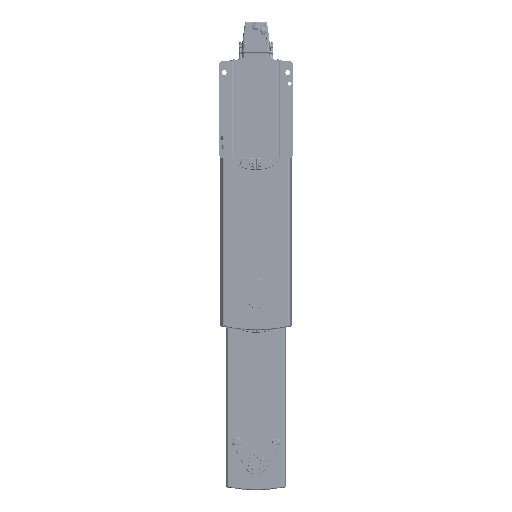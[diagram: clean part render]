
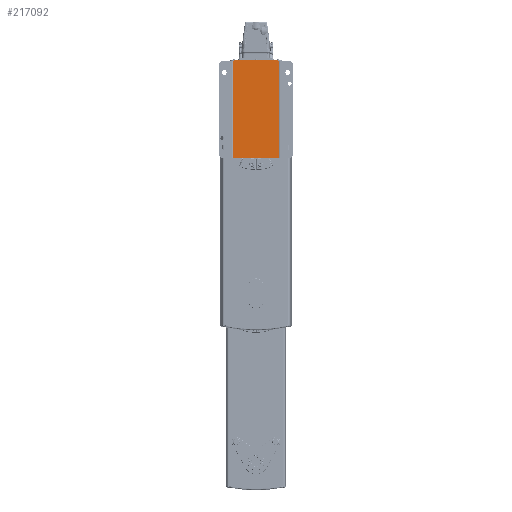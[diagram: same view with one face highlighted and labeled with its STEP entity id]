
A CAD part, front view. The second image highlights one B-rep face of the part: STEP entity #217092.
In plain terms, the highlighted planar face has unit normal (0, -1, 0).
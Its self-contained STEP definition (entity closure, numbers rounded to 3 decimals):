
#4188 = VERTEX_POINT ( 'NONE', #6015 ) ;
#5626 = VECTOR ( 'NONE', #175443, 1000. ) ;
#6015 = CARTESIAN_POINT ( 'NONE',  ( -62., -17., -87.5 ) ) ;
#10782 = VERTEX_POINT ( 'NONE', #75899 ) ;
#12616 = DIRECTION ( 'NONE',  ( 1., 0., 0. ) ) ;
#13301 = ORIENTED_EDGE ( 'NONE', *, *, #235526, .F. ) ;
#18400 = VECTOR ( 'NONE', #67423, 1000. ) ;
#20285 = LINE ( 'NONE', #263198, #18400 ) ;
#22395 = VECTOR ( 'NONE', #224908, 1000. ) ;
#26976 = LINE ( 'NONE', #155637, #192084 ) ;
#32789 = LINE ( 'NONE', #205720, #139370 ) ;
#33212 = CARTESIAN_POINT ( 'NONE',  ( -60., -17., 170. ) ) ;
#34417 = EDGE_LOOP ( 'NONE', ( #227489, #258175, #193976, #238847, #234279, #13301, #123181, #256083 ) ) ;
#34655 = VERTEX_POINT ( 'NONE', #33212 ) ;
#34803 = DIRECTION ( 'NONE',  ( 1., 0., 0. ) ) ;
#39804 = AXIS2_PLACEMENT_3D ( 'NONE', #66251, #279206, #150620 ) ;
#41733 = VECTOR ( 'NONE', #12616, 1000. ) ;
#42211 = EDGE_CURVE ( 'NONE', #189676, #151225, #273421, .T. ) ;
#46390 = LINE ( 'NONE', #137748, #22395 ) ;
#48513 = LINE ( 'NONE', #135649, #41733 ) ;
#48719 = VERTEX_POINT ( 'NONE', #275207 ) ;
#51445 = DIRECTION ( 'NONE',  ( 0., 0., -1. ) ) ;
#59809 = LINE ( 'NONE', #255551, #191766 ) ;
#66251 = CARTESIAN_POINT ( 'NONE',  ( 65., -17., 170. ) ) ;
#67423 = DIRECTION ( 'NONE',  ( 0., 0., -1. ) ) ;
#75899 = CARTESIAN_POINT ( 'NONE',  ( -60., -17., 172. ) ) ;
#82616 = DIRECTION ( 'NONE',  ( 1., 0., 0. ) ) ;
#86706 = EDGE_CURVE ( 'NONE', #48719, #189676, #32789, .T. ) ;
#105703 = CARTESIAN_POINT ( 'NONE',  ( 62., -17., 170. ) ) ;
#109095 = PLANE ( 'NONE',  #39804 ) ;
#123181 = ORIENTED_EDGE ( 'NONE', *, *, #221770, .F. ) ;
#135649 = CARTESIAN_POINT ( 'NONE',  ( -100., -17., -87.5 ) ) ;
#137748 = CARTESIAN_POINT ( 'NONE',  ( -60., -17., 170. ) ) ;
#139370 = VECTOR ( 'NONE', #51445, 1000. ) ;
#150620 = DIRECTION ( 'NONE',  ( 0., 0., 1. ) ) ;
#151225 = VERTEX_POINT ( 'NONE', #105703 ) ;
#153469 = FACE_OUTER_BOUND ( 'NONE', #34417, .T. ) ;
#155190 = EDGE_CURVE ( 'NONE', #151225, #187380, #20285, .T. ) ;
#155430 = CARTESIAN_POINT ( 'NONE',  ( 65., -17., 170. ) ) ;
#155637 = CARTESIAN_POINT ( 'NONE',  ( -62., -17., 170. ) ) ;
#167526 = VECTOR ( 'NONE', #34803, 1000. ) ;
#175320 = EDGE_CURVE ( 'NONE', #10782, #48719, #59809, .T. ) ;
#175443 = DIRECTION ( 'NONE',  ( 1., 0., 0. ) ) ;
#184831 = EDGE_CURVE ( 'NONE', #4188, #187380, #48513, .T. ) ;
#187380 = VERTEX_POINT ( 'NONE', #280539 ) ;
#189676 = VERTEX_POINT ( 'NONE', #281330 ) ;
#191766 = VECTOR ( 'NONE', #82616, 1000. ) ;
#192084 = VECTOR ( 'NONE', #201331, 1000. ) ;
#193976 = ORIENTED_EDGE ( 'NONE', *, *, #86706, .F. ) ;
#201331 = DIRECTION ( 'NONE',  ( 0., 0., 1. ) ) ;
#201350 = CARTESIAN_POINT ( 'NONE',  ( -62., -17., 170. ) ) ;
#205720 = CARTESIAN_POINT ( 'NONE',  ( 60., -17., 170. ) ) ;
#217092 = ADVANCED_FACE ( 'NONE', ( #153469 ), #109095, .F. ) ;
#221770 = EDGE_CURVE ( 'NONE', #4188, #280851, #26976, .T. ) ;
#224908 = DIRECTION ( 'NONE',  ( 0., 0., 1. ) ) ;
#225252 = EDGE_CURVE ( 'NONE', #34655, #10782, #46390, .T. ) ;
#227489 = ORIENTED_EDGE ( 'NONE', *, *, #155190, .F. ) ;
#230544 = CARTESIAN_POINT ( 'NONE',  ( 65., -17., 170. ) ) ;
#234279 = ORIENTED_EDGE ( 'NONE', *, *, #225252, .F. ) ;
#235526 = EDGE_CURVE ( 'NONE', #280851, #34655, #236907, .T. ) ;
#236907 = LINE ( 'NONE', #155430, #5626 ) ;
#238847 = ORIENTED_EDGE ( 'NONE', *, *, #175320, .F. ) ;
#255551 = CARTESIAN_POINT ( 'NONE',  ( 65., -17., 172. ) ) ;
#256083 = ORIENTED_EDGE ( 'NONE', *, *, #184831, .T. ) ;
#258175 = ORIENTED_EDGE ( 'NONE', *, *, #42211, .F. ) ;
#263198 = CARTESIAN_POINT ( 'NONE',  ( 62., -17., 170. ) ) ;
#273421 = LINE ( 'NONE', #230544, #167526 ) ;
#275207 = CARTESIAN_POINT ( 'NONE',  ( 60., -17., 172. ) ) ;
#279206 = DIRECTION ( 'NONE',  ( 0., 1., 0. ) ) ;
#280539 = CARTESIAN_POINT ( 'NONE',  ( 62., -17., -87.5 ) ) ;
#280851 = VERTEX_POINT ( 'NONE', #201350 ) ;
#281330 = CARTESIAN_POINT ( 'NONE',  ( 60., -17., 170. ) ) ;
